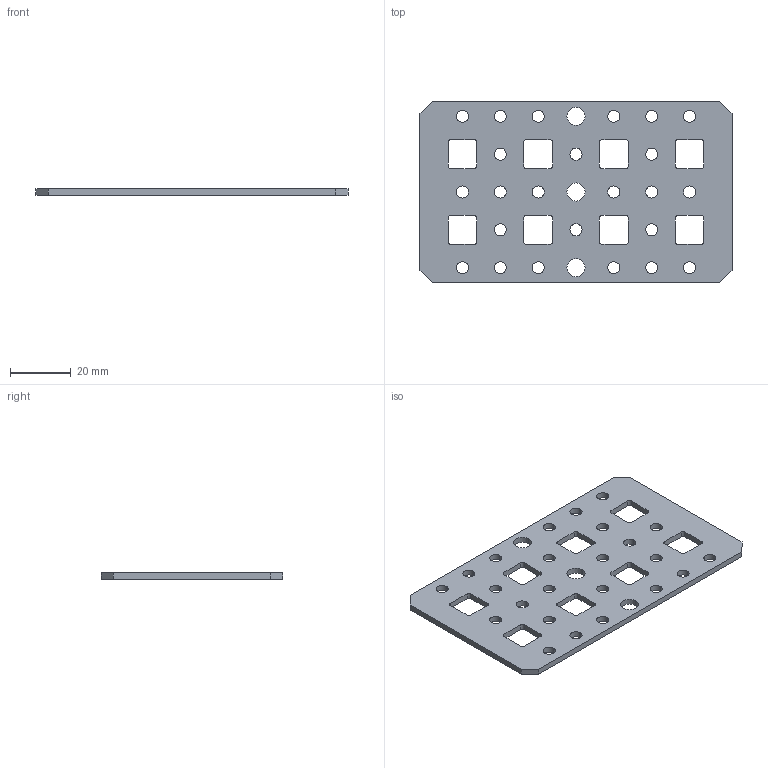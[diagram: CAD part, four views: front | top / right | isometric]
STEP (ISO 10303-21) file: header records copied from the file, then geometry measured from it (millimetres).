
FILE_DESCRIPTION (( 'STEP AP203' ), '1' );
FILE_NAME ('MP 06.10 P Ïàíåëü ìîíòàæíàÿ ïëîñêàÿ.STEP', '2012-11-26T12:29:10', ( 'system' ), ( '' ), 'SwSTEP 2.0', 'SolidWorks 2012', '' );
FILE_SCHEMA (( 'CONFIG_CONTROL_DESIGN' ));
Length unit declared in the file: millimetre
Products named in the file (1): MP 06.10 P Ïàíåëü ìîíòàæíàÿ ïëîñêàÿ
Bounding box: 103 x 60 x 2 mm (x, y, z)
Volume: 10088 mm3; surface area: 12023.5 mm2
Topology: 1 solids, 1 shells, 128 faces, 378 edges, 252 vertices
Faces by surface type: cylinder 86, plane 42
Entity records: 4571 total; most frequent: DIRECTION 808, CARTESIAN_POINT 759, ORIENTED_EDGE 756, EDGE_CURVE 378, AXIS2_PLACEMENT_3D 301, VERTEX_POINT 252, LINE 206, VECTOR 206
